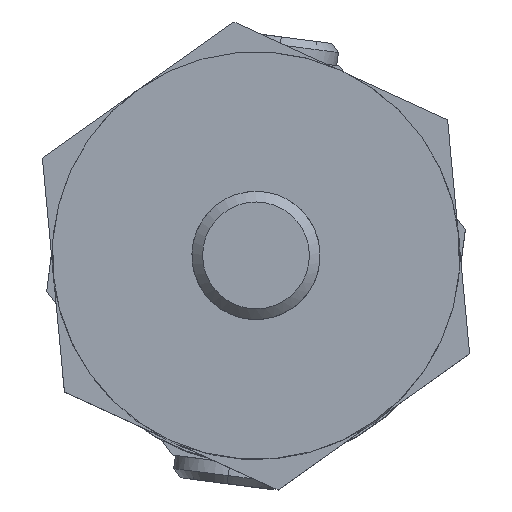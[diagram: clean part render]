
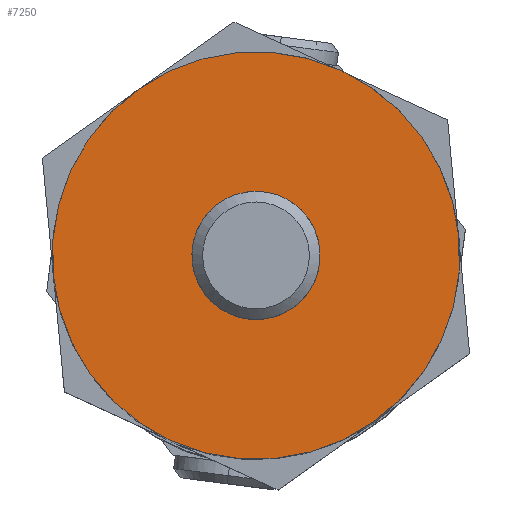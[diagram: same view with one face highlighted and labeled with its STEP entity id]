
A CAD part, top view. The second image highlights one B-rep face of the part: STEP entity #7250.
In plain terms, the highlighted planar face has unit normal (0, 0, 1) as drawn and (0, -1, 0) by its records, which use the part's own axes.
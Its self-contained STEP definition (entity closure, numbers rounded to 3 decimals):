
#343=FACE_BOUND('',#1565,.T.);
#1059=FACE_OUTER_BOUND('',#1564,.T.);
#1564=EDGE_LOOP('',(#6581));
#1565=EDGE_LOOP('',(#6582));
#1917=CIRCLE('',#8374,6.);
#1930=CIRCLE('',#8412,19.075);
#3531=VERTEX_POINT('',#34793);
#3568=VERTEX_POINT('',#34911);
#4526=EDGE_CURVE('',#3531,#3531,#1917,.T.);
#4582=EDGE_CURVE('',#3568,#3568,#1930,.T.);
#6581=ORIENTED_EDGE('',*,*,#4582,.F.);
#6582=ORIENTED_EDGE('',*,*,#4526,.T.);
#6829=PLANE('',#8411);
#7250=ADVANCED_FACE('',(#1059,#343),#6829,.T.);
#8374=AXIS2_PLACEMENT_3D('',#34794,#10216,#10217);
#8411=AXIS2_PLACEMENT_3D('',#34910,#10333,#10334);
#8412=AXIS2_PLACEMENT_3D('',#34912,#10335,#10336);
#10216=DIRECTION('center_axis',(0.,1.,0.));
#10217=DIRECTION('ref_axis',(0.,0.,
1.));
#10333=DIRECTION('center_axis',(0.,-1.,0.));
#10334=DIRECTION('ref_axis',(0.,0.,-1.));
#10335=DIRECTION('center_axis',(0.,1.,0.));
#10336=DIRECTION('ref_axis',(0.,0.,
1.));
#34793=CARTESIAN_POINT('',(0.,0.,-6.));
#34794=CARTESIAN_POINT('Origin',(0.,0.,
0.));
#34910=CARTESIAN_POINT('Origin',(-19.085,0.,0.));
#34911=CARTESIAN_POINT('',(0.,0.,-19.075));
#34912=CARTESIAN_POINT('Origin',(0.,0.,
0.));
